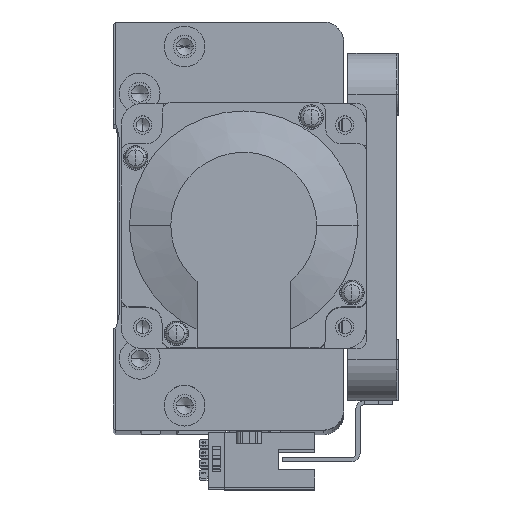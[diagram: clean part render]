
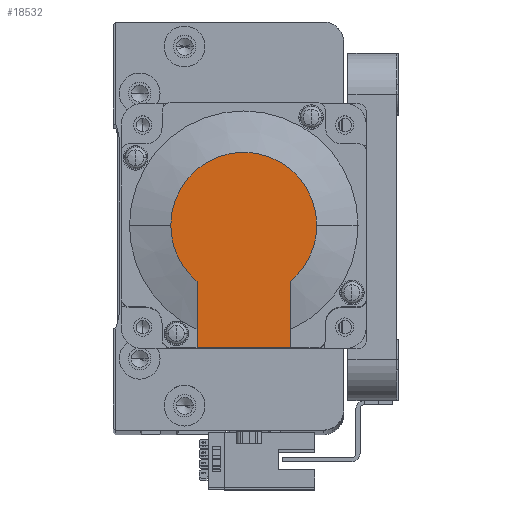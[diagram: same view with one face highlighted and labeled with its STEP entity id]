
A CAD part, top view. The second image highlights one B-rep face of the part: STEP entity #18532.
In plain terms, the highlighted planar face has unit normal (0, 0, 1) as drawn and (-1, 0, 0) by its records, which use the part's own axes.
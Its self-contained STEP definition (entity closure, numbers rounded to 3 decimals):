
#1547 = CARTESIAN_POINT ( 'NONE',  ( -118.5, 0., 11.45 ) ) ;
#2983 = EDGE_CURVE ( 'NONE', #20278, #46892, #48333, .T. ) ;
#3739 = CARTESIAN_POINT ( 'NONE',  ( -118.5, 0., 0. ) ) ;
#4429 = CARTESIAN_POINT ( 'NONE',  ( -118.5, -8.941, 0. ) ) ;
#4655 = EDGE_CURVE ( 'NONE', #20278, #18991, #19737, .T. ) ;
#4711 = EDGE_CURVE ( 'NONE', #37321, #26415, #15885, .T. ) ;
#6205 = VECTOR ( 'NONE', #35467, 1000. ) ;
#7725 = VECTOR ( 'NONE', #30196, 1000. ) ;
#7842 = DIRECTION ( 'NONE',  ( 0., 0., -1. ) ) ;
#8527 = DIRECTION ( 'NONE',  ( 0., 0., 1. ) ) ;
#10851 = DIRECTION ( 'NONE',  ( -1., 0., 0. ) ) ;
#11608 = CARTESIAN_POINT ( 'NONE',  ( -118.5, 30., 25. ) ) ;
#12111 = EDGE_CURVE ( 'NONE', #46892, #27513, #40372, .T. ) ;
#13504 = AXIS2_PLACEMENT_3D ( 'NONE', #4429, #33128, #8527 ) ;
#15344 = DIRECTION ( 'NONE',  ( -1., 0., 0. ) ) ;
#15885 = CIRCLE ( 'NONE', #48908, 17.881 ) ;
#18036 = AXIS2_PLACEMENT_3D ( 'NONE', #39866, #15344, #43905 ) ;
#18216 = CARTESIAN_POINT ( 'NONE',  ( -118.5, 0., 17.881 ) ) ;
#18532 = ADVANCED_FACE ( 'NONE', ( #52515 ), #41072, .T. ) ;
#18991 = VERTEX_POINT ( 'NONE', #39636 ) ;
#19737 = LINE ( 'NONE', #44091, #52256 ) ;
#20278 = VERTEX_POINT ( 'NONE', #48723 ) ;
#21528 = ORIENTED_EDGE ( 'NONE', *, *, #34141, .T. ) ;
#22685 = ORIENTED_EDGE ( 'NONE', *, *, #4655, .T. ) ;
#26134 = CARTESIAN_POINT ( 'NONE',  ( -118.5, 0., -17.881 ) ) ;
#26415 = VERTEX_POINT ( 'NONE', #18216 ) ;
#27513 = VERTEX_POINT ( 'NONE', #41648 ) ;
#28847 = EDGE_CURVE ( 'NONE', #18991, #37321, #47115, .T. ) ;
#29678 = ORIENTED_EDGE ( 'NONE', *, *, #12111, .F. ) ;
#30196 = DIRECTION ( 'NONE',  ( 0., -1., 0. ) ) ;
#32445 = DIRECTION ( 'NONE',  ( -1., 0., 0. ) ) ;
#33128 = DIRECTION ( 'NONE',  ( -1., 0., 0. ) ) ;
#34141 = EDGE_CURVE ( 'NONE', #26415, #27513, #34424, .T. ) ;
#34424 = CIRCLE ( 'NONE', #18036, 17.881 ) ;
#34789 = ORIENTED_EDGE ( 'NONE', *, *, #4711, .T. ) ;
#35392 = CARTESIAN_POINT ( 'NONE',  ( -118.5, 0., 0. ) ) ;
#35467 = DIRECTION ( 'NONE',  ( 0., 0., 1. ) ) ;
#35686 = CARTESIAN_POINT ( 'NONE',  ( -118.5, 30., 11.45 ) ) ;
#37321 = VERTEX_POINT ( 'NONE', #26134 ) ;
#39479 = DIRECTION ( 'NONE',  ( 0., 0., -1. ) ) ;
#39636 = CARTESIAN_POINT ( 'NONE',  ( -118.5, 13.735, -11.45 ) ) ;
#39866 = CARTESIAN_POINT ( 'NONE',  ( -118.5, 0., 0. ) ) ;
#40062 = DIRECTION ( 'NONE',  ( 0., -1., 0. ) ) ;
#40372 = LINE ( 'NONE', #1547, #7725 ) ;
#41072 = PLANE ( 'NONE',  #13504 ) ;
#41648 = CARTESIAN_POINT ( 'NONE',  ( -118.5, 13.735, 11.45 ) ) ;
#43411 = ORIENTED_EDGE ( 'NONE', *, *, #2983, .F. ) ;
#43651 = AXIS2_PLACEMENT_3D ( 'NONE', #35392, #10851, #39479 ) ;
#43905 = DIRECTION ( 'NONE',  ( 0., 0., -1. ) ) ;
#44091 = CARTESIAN_POINT ( 'NONE',  ( -118.5, -8.941, -11.45 ) ) ;
#45738 = EDGE_LOOP ( 'NONE', ( #22685, #49870, #34789, #21528, #29678, #43411 ) ) ;
#46892 = VERTEX_POINT ( 'NONE', #35686 ) ;
#47115 = CIRCLE ( 'NONE', #43651, 17.881 ) ;
#48333 = LINE ( 'NONE', #11608, #6205 ) ;
#48723 = CARTESIAN_POINT ( 'NONE',  ( -118.5, 30., -11.45 ) ) ;
#48908 = AXIS2_PLACEMENT_3D ( 'NONE', #3739, #32445, #7842 ) ;
#49870 = ORIENTED_EDGE ( 'NONE', *, *, #28847, .T. ) ;
#52256 = VECTOR ( 'NONE', #40062, 1000. ) ;
#52515 = FACE_OUTER_BOUND ( 'NONE', #45738, .T. ) ;
